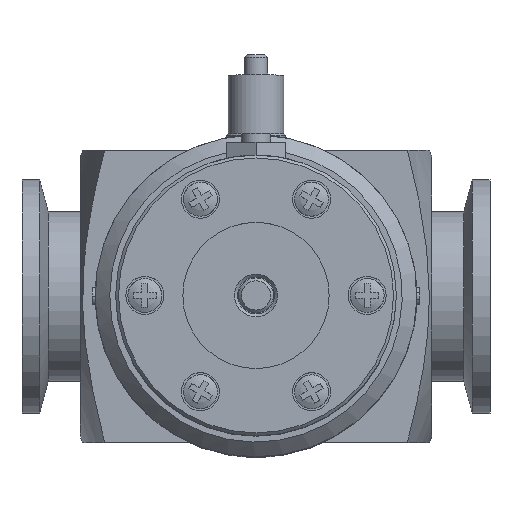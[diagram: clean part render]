
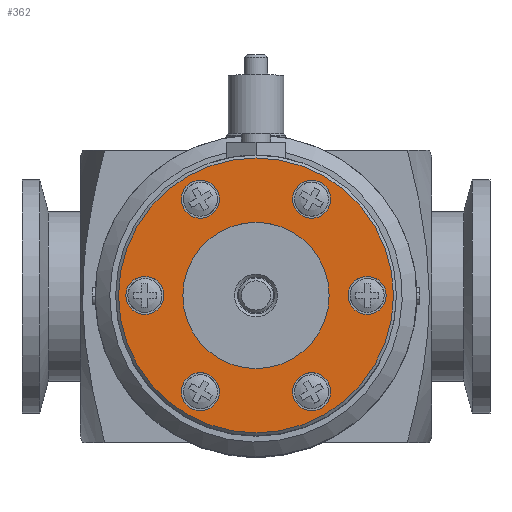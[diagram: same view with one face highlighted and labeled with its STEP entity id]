
A CAD part, top view. The second image highlights one B-rep face of the part: STEP entity #362.
In plain terms, the highlighted planar face has unit normal (0, 0, 1) as drawn and (0, 0, -1) by its records, which use the part's own axes.
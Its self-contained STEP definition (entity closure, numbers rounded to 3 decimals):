
#362 = ADVANCED_FACE( '', ( #621, #622, #623, #624, #625, #626, #627, #628 ), #629, .T. );
#621 = FACE_OUTER_BOUND( '', #1088, .T. );
#622 = FACE_BOUND( '', #1089, .T. );
#623 = FACE_BOUND( '', #1090, .T. );
#624 = FACE_BOUND( '', #1091, .T. );
#625 = FACE_BOUND( '', #1092, .T. );
#626 = FACE_BOUND( '', #1093, .T. );
#627 = FACE_BOUND( '', #1094, .T. );
#628 = FACE_BOUND( '', #1095, .T. );
#629 = PLANE( '', #1096 );
#1088 = EDGE_LOOP( '', ( #1620 ) );
#1089 = EDGE_LOOP( '', ( #1621 ) );
#1090 = EDGE_LOOP( '', ( #1622 ) );
#1091 = EDGE_LOOP( '', ( #1623 ) );
#1092 = EDGE_LOOP( '', ( #1624 ) );
#1093 = EDGE_LOOP( '', ( #1625 ) );
#1094 = EDGE_LOOP( '', ( #1626 ) );
#1095 = EDGE_LOOP( '', ( #1627 ) );
#1096 = AXIS2_PLACEMENT_3D( '', #1628, #1629, #1630 );
#1620 = ORIENTED_EDGE( '', *, *, #2455, .T. );
#1621 = ORIENTED_EDGE( '', *, *, #2456, .T. );
#1622 = ORIENTED_EDGE( '', *, *, #2457, .T. );
#1623 = ORIENTED_EDGE( '', *, *, #2458, .T. );
#1624 = ORIENTED_EDGE( '', *, *, #2459, .T. );
#1625 = ORIENTED_EDGE( '', *, *, #2460, .T. );
#1626 = ORIENTED_EDGE( '', *, *, #2461, .T. );
#1627 = ORIENTED_EDGE( '', *, *, #2462, .T. );
#1628 = CARTESIAN_POINT( '', ( 0., 0., 0. ) );
#1629 = DIRECTION( '', ( 0., 0., -1. ) );
#1630 = DIRECTION( '', ( -1., 0., 0. ) );
#2455 = EDGE_CURVE( '', #2731, #2731, #2732, .T. );
#2456 = EDGE_CURVE( '', #2733, #2733, #2734, .T. );
#2457 = EDGE_CURVE( '', #2735, #2735, #2736, .T. );
#2458 = EDGE_CURVE( '', #2737, #2737, #2738, .T. );
#2459 = EDGE_CURVE( '', #2739, #2739, #2740, .T. );
#2460 = EDGE_CURVE( '', #2741, #2741, #2742, .T. );
#2461 = EDGE_CURVE( '', #2743, #2743, #2744, .T. );
#2462 = EDGE_CURVE( '', #2745, #2745, #2746, .T. );
#2731 = VERTEX_POINT( '', #3268 );
#2732 = CIRCLE( '', #3269, 23.5 );
#2733 = VERTEX_POINT( '', #3270 );
#2734 = CIRCLE( '', #3271, 3.25 );
#2735 = VERTEX_POINT( '', #3272 );
#2736 = CIRCLE( '', #3273, 3.25 );
#2737 = VERTEX_POINT( '', #3274 );
#2738 = CIRCLE( '', #3275, 3.25 );
#2739 = VERTEX_POINT( '', #3276 );
#2740 = CIRCLE( '', #3277, 3.25 );
#2741 = VERTEX_POINT( '', #3278 );
#2742 = CIRCLE( '', #3279, 3.25 );
#2743 = VERTEX_POINT( '', #3280 );
#2744 = CIRCLE( '', #3281, 3.25 );
#2745 = VERTEX_POINT( '', #3282 );
#2746 = CIRCLE( '', #3283, 12.5 );
#3268 = CARTESIAN_POINT( '', ( -23.5, 0., 0. ) );
#3269 = AXIS2_PLACEMENT_3D( '', #4290, #4291, #4292 );
#3270 = CARTESIAN_POINT( '', ( 9.5, -13.204, 0. ) );
#3271 = AXIS2_PLACEMENT_3D( '', #4293, #4294, #4295 );
#3272 = CARTESIAN_POINT( '', ( -9.5, -13.204, 0. ) );
#3273 = AXIS2_PLACEMENT_3D( '', #4296, #4297, #4298 );
#3274 = CARTESIAN_POINT( '', ( -19., 3.25, 0. ) );
#3275 = AXIS2_PLACEMENT_3D( '', #4299, #4300, #4301 );
#3276 = CARTESIAN_POINT( '', ( -9.5, 19.704, 0. ) );
#3277 = AXIS2_PLACEMENT_3D( '', #4302, #4303, #4304 );
#3278 = CARTESIAN_POINT( '', ( 9.5, 19.704, 0. ) );
#3279 = AXIS2_PLACEMENT_3D( '', #4305, #4306, #4307 );
#3280 = CARTESIAN_POINT( '', ( 19., 3.25, 0. ) );
#3281 = AXIS2_PLACEMENT_3D( '', #4308, #4309, #4310 );
#3282 = CARTESIAN_POINT( '', ( 0., 12.5, 0. ) );
#3283 = AXIS2_PLACEMENT_3D( '', #4311, #4312, #4313 );
#4290 = CARTESIAN_POINT( '', ( 0., 0., 0. ) );
#4291 = DIRECTION( '', ( 0., 0., -1. ) );
#4292 = DIRECTION( '', ( -1., 0., 0. ) );
#4293 = CARTESIAN_POINT( '', ( 9.5, -16.454, 0. ) );
#4294 = DIRECTION( '', ( 0., 0., 1. ) );
#4295 = DIRECTION( '', ( 0., 1., 0. ) );
#4296 = CARTESIAN_POINT( '', ( -9.5, -16.454, 0. ) );
#4297 = DIRECTION( '', ( 0., 0., 1. ) );
#4298 = DIRECTION( '', ( 0., 1., 0. ) );
#4299 = CARTESIAN_POINT( '', ( -19., 0., 0. ) );
#4300 = DIRECTION( '', ( 0., 0., 1. ) );
#4301 = DIRECTION( '', ( 0., 1., 0. ) );
#4302 = CARTESIAN_POINT( '', ( -9.5, 16.454, 0. ) );
#4303 = DIRECTION( '', ( 0., 0., 1. ) );
#4304 = DIRECTION( '', ( 0., 1., 0. ) );
#4305 = CARTESIAN_POINT( '', ( 9.5, 16.454, 0. ) );
#4306 = DIRECTION( '', ( 0., 0., 1. ) );
#4307 = DIRECTION( '', ( 0., 1., 0. ) );
#4308 = CARTESIAN_POINT( '', ( 19., 0., 0. ) );
#4309 = DIRECTION( '', ( 0., 0., 1. ) );
#4310 = DIRECTION( '', ( 0., 1., 0. ) );
#4311 = CARTESIAN_POINT( '', ( 0., 0., 0. ) );
#4312 = DIRECTION( '', ( 0., 0., 1. ) );
#4313 = DIRECTION( '', ( 0., 1., 0. ) );
